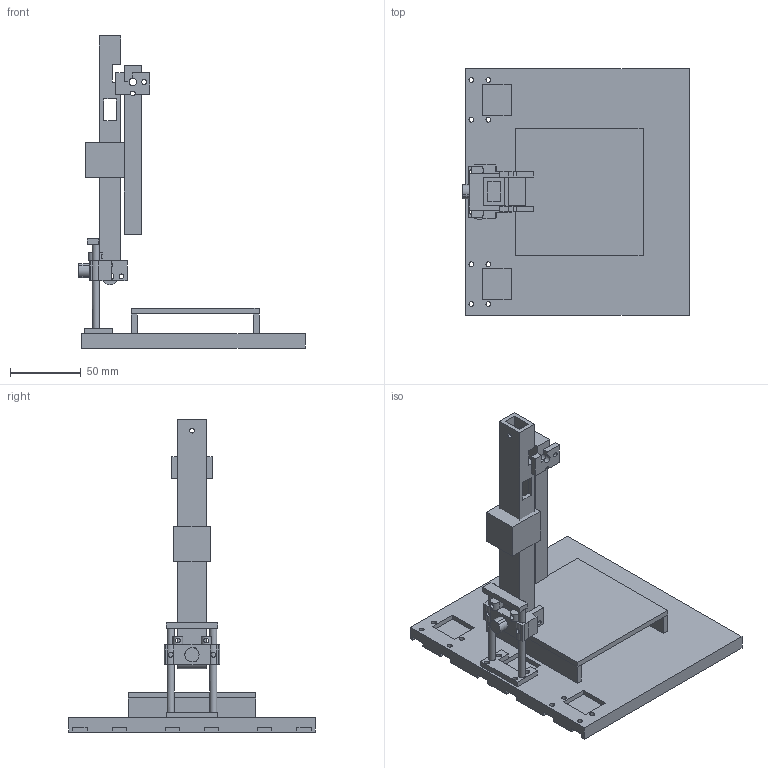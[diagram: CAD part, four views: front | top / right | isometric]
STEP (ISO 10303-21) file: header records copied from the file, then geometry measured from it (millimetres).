
FILE_DESCRIPTION(('Open CASCADE Model'),'2;1');
FILE_NAME('F07_asm_lifted','2026-11-15T22:32:22',('Author'),( 'Open CASCADE'),'Open CASCADE STEP processor 8.0','build123d', 'Unknown');
FILE_SCHEMA(('AUTOMOTIVE_DESIGN { 1 0 10303 214 1 1 1 1 }'));
Length unit declared in the file: millimetre
Products named in the file (7): F07_asm_lifted; BASE; BED; TWR_0; CAR_0; COL_0; ARM
Assembly tree (6 placements, depth 2):
  F07_asm_lifted
    BASE
    BED
    TWR_0
    CAR_0
    COL_0
    ARM
Bounding box: 159.5 x 173.5 x 220 mm (x, y, z)
Volume: 391404.9 mm3; surface area: 128948.4 mm2
Topology: 6 solids, 6 shells, 289 faces, 800 edges, 526 vertices
Faces by surface type: plane 224, cylinder 65
Full cylindrical faces by diameter (mm): 3.4 x36, 5 x2, 5.3 x4, 5.4 x2
Entity records: 25074 total; most frequent: CARTESIAN_POINT 9580, DIRECTION 2602, LINE 1612, VECTOR 1612, ORIENTED_EDGE 1600, PCURVE 1600, DEFINITIONAL_REPRESENTATION 1600, EDGE_CURVE 800
